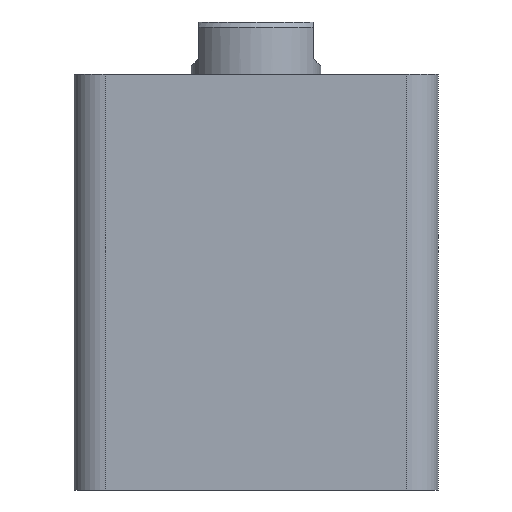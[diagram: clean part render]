
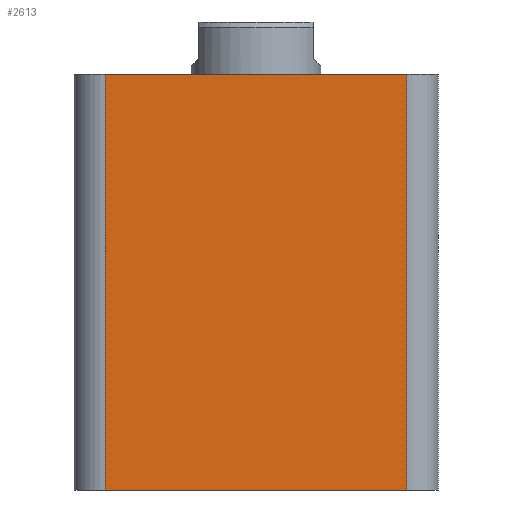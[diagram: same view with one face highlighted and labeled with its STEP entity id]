
A CAD part, front view. The second image highlights one B-rep face of the part: STEP entity #2613.
In plain terms, the highlighted planar face has unit normal (0, -1, 0).
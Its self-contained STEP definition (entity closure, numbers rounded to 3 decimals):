
#147 = FACE_OUTER_BOUND ( 'NONE', #1084, .T. ) ;
#434 = VECTOR ( 'NONE', #2223, 1000. ) ;
#437 = LINE ( 'NONE', #2201, #434 ) ;
#448 = VECTOR ( 'NONE', #2324, 1000. ) ;
#523 = EDGE_CURVE ( 'NONE', #873, #785, #1781, .T. ) ;
#524 = EDGE_CURVE ( 'NONE', #923, #789, #1783, .T. ) ;
#525 = EDGE_CURVE ( 'NONE', #923, #785, #1779, .T. ) ;
#534 = EDGE_CURVE ( 'NONE', #789, #873, #437, .T. ) ;
#583 = AXIS2_PLACEMENT_3D ( 'NONE', #1711, #1706, #1705 ) ;
#785 = VERTEX_POINT ( 'NONE', #2148 ) ;
#789 = VERTEX_POINT ( 'NONE', #2136 ) ;
#873 = VERTEX_POINT ( 'NONE', #2544 ) ;
#923 = VERTEX_POINT ( 'NONE', #2527 ) ;
#1017 = ORIENTED_EDGE ( 'NONE', *, *, #525, .F. ) ;
#1018 = ORIENTED_EDGE ( 'NONE', *, *, #524, .T. ) ;
#1019 = ORIENTED_EDGE ( 'NONE', *, *, #534, .T. ) ;
#1020 = ORIENTED_EDGE ( 'NONE', *, *, #523, .T. ) ;
#1084 = EDGE_LOOP ( 'NONE', ( #1017, #1018, #1019, #1020 ) ) ;
#1705 = DIRECTION ( 'NONE',  ( 0., 0., 1. ) ) ;
#1706 = DIRECTION ( 'NONE',  ( 0., 1., 0. ) ) ;
#1709 = PLANE ( 'NONE',  #583 ) ;
#1711 = CARTESIAN_POINT ( 'NONE',  ( -35., -35., 80. ) ) ;
#1777 = VECTOR ( 'NONE', #2342, 1000. ) ;
#1779 = LINE ( 'NONE', #2333, #448 ) ;
#1780 = VECTOR ( 'NONE', #2386, 1000. ) ;
#1781 = LINE ( 'NONE', #2390, #1780 ) ;
#1783 = LINE ( 'NONE', #2351, #1777 ) ;
#2136 = CARTESIAN_POINT ( 'NONE',  ( -29., -35., 0. ) ) ;
#2148 = CARTESIAN_POINT ( 'NONE',  ( 29., -35., 80. ) ) ;
#2201 = CARTESIAN_POINT ( 'NONE',  ( -35., -35., 0. ) ) ;
#2223 = DIRECTION ( 'NONE',  ( 1., 0., 0. ) ) ;
#2324 = DIRECTION ( 'NONE',  ( 1., 0., 0. ) ) ;
#2333 = CARTESIAN_POINT ( 'NONE',  ( -35., -35., 80. ) ) ;
#2342 = DIRECTION ( 'NONE',  ( 0., 0., -1. ) ) ;
#2351 = CARTESIAN_POINT ( 'NONE',  ( -29., -35., 80. ) ) ;
#2386 = DIRECTION ( 'NONE',  ( 0., 0., 1. ) ) ;
#2390 = CARTESIAN_POINT ( 'NONE',  ( 29., -35., 80. ) ) ;
#2527 = CARTESIAN_POINT ( 'NONE',  ( -29., -35., 80. ) ) ;
#2544 = CARTESIAN_POINT ( 'NONE',  ( 29., -35., 0. ) ) ;
#2613 = ADVANCED_FACE ( 'NONE', ( #147 ), #1709, .F. ) ;
